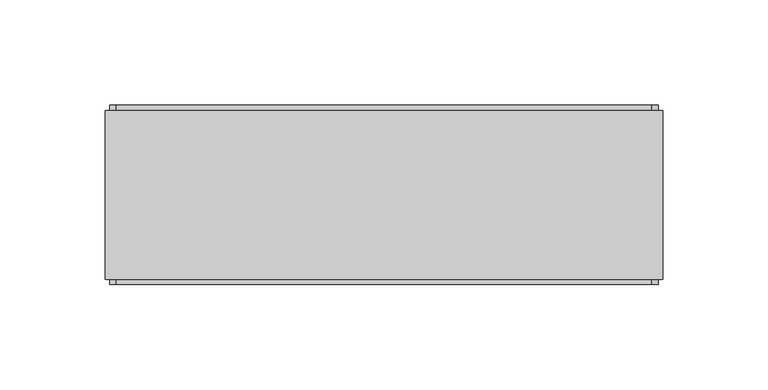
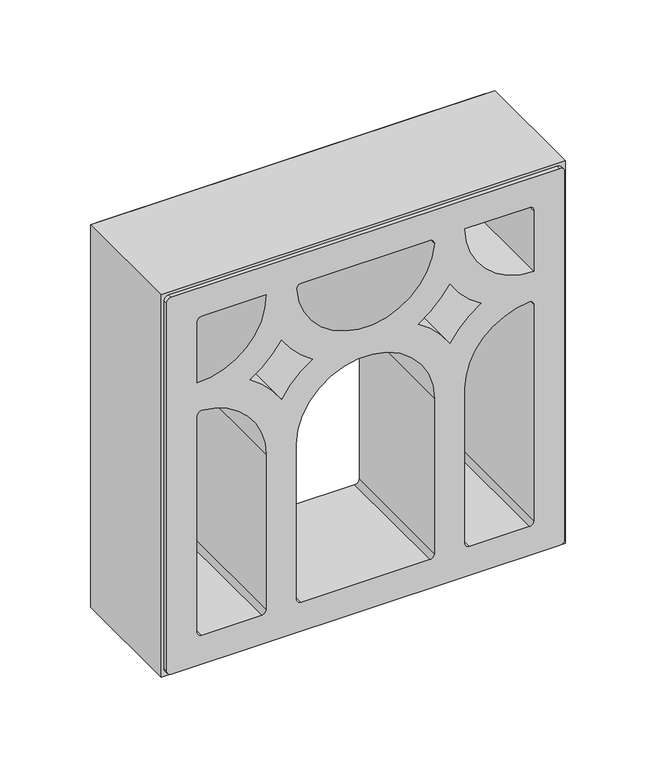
"""IFC4 building model written with IfcOpenShell, lengths in millimetres: plate geometry, PORTOBELLO - STUDIO CRAFT 2 26X26 (PAINEL CORTINA) : STUDIO CRAFT 2."""

from ifc_helpers import new_model, si_unit, point, frame, frame_2d, origin, place, context, project, spatial, polyline, circle_curve, trimmed, segment, composite_curve, outline, extrude, source, transform, mapped, element, save


def plate_7499bc92(model_context):
    return source(origin(), model_context, "Body", "SweptSolid", [
        extrude(outline(composite_curve([segment(polyline([(5.0, 130.0), (259.0, 130.0)]), True, "CONTINUOUS"), segment(trimmed(circle_curve(frame_2d((259.0, 127.0)), 3.0), [point((259.0, 130.0))], [point((262.0, 127.0))], False, "CARTESIAN"), True, "CONTINUOUS"), segment(polyline([(262.0, 127.0), (262.0, -127.0)]), True, "CONTINUOUS"), segment(trimmed(circle_curve(frame_2d((259.0, -127.0)), 3.0), [point((262.0, -127.0))], [point((259.0, -130.0))], False, "CARTESIAN"), True, "CONTINUOUS"), segment(polyline([(259.0, -130.0), (5.0, -130.0)]), True, "CONTINUOUS"), segment(trimmed(circle_curve(frame_2d((5.0, -127.0)), 3.0), [point((5.0, -130.0))], [point((2.0, -127.0))], False, "CARTESIAN"), True, "CONTINUOUS"), segment(polyline([(2.0, -127.0), (2.0, 127.0)]), True, "CONTINUOUS"), segment(trimmed(circle_curve(frame_2d((5.0, 127.0)), 3.0), [point((2.0, 127.0))], [point((5.0, 130.0))], False, "CARTESIAN"), True, "CONTINUOUS")], self_intersect=False), holes=[composite_curve([segment(polyline([(242.0, 65.0), (242.0, 107.0)]), True, "CONTINUOUS"), segment(trimmed(circle_curve(frame_2d((239.0, 107.0)), 3.0), [point((242.0, 107.0))], [point((239.0, 110.0))], True, "CARTESIAN"), True, "CONTINUOUS"), segment(polyline([(239.0, 110.0), (197.0, 110.0)]), True, "CONTINUOUS"), segment(trimmed(circle_curve(frame_2d((242.0, 110.0)), 45.0), [point((197.0, 110.0))], [point((242.0, 65.0))], True, "CARTESIAN"), True, "CONTINUOUS")], self_intersect=False), composite_curve([segment(polyline([(197.0, -110.0), (239.0, -110.0)]), True, "CONTINUOUS"), segment(trimmed(circle_curve(frame_2d((239.0, -107.0)), 3.0), [point((239.0, -110.0))], [point((242.0, -107.0))], True, "CARTESIAN"), True, "CONTINUOUS"), segment(polyline([(242.0, -107.0), (242.0, -65.0)]), True, "CONTINUOUS"), segment(trimmed(circle_curve(frame_2d((242.0, -110.0)), 45.0), [point((242.0, -65.0))], [point((197.0, -110.0))], True, "CARTESIAN"), True, "CONTINUOUS")], self_intersect=False), composite_curve([segment(polyline([(22.0, -68.0), (22.0, -107.0)]), True, "CONTINUOUS"), segment(trimmed(circle_curve(frame_2d((25.0, -107.0)), 3.0), [point((22.0, -107.0))], [point((25.0, -110.0))], True, "CARTESIAN"), True, "CONTINUOUS"), segment(polyline([(25.0, -110.0), (173.8927201, -110.0)]), True, "CONTINUOUS"), segment(trimmed(circle_curve(frame_2d((173.8927201, -107.0)), 3.0), [point((173.8927201, -110.0))], [point((176.8850573, -106.7857143))], True, "CARTESIAN"), True, "CONTINUOUS"), segment(trimmed(circle_curve(frame_2d((132.0, -110.0)), 45.0), [point((176.8850573, -106.7857143))], [point((132.0, -65.0))], True, "CARTESIAN"), True, "CONTINUOUS"), segment(polyline([(132.0, -65.0), (25.0, -65.0)]), True, "CONTINUOUS"), segment(trimmed(circle_curve(frame_2d((25.0, -68.0)), 3.0), [point((25.0, -65.0))], [point((22.0, -68.0))], True, "CARTESIAN"), True, "CONTINUOUS")], self_intersect=False), composite_curve([segment(polyline([(173.8927201, 110.0), (25.0, 110.0)]), True, "CONTINUOUS"), segment(trimmed(circle_curve(frame_2d((25.0, 107.0)), 3.0), [point((25.0, 110.0))], [point((22.0, 107.0))], True, "CARTESIAN"), True, "CONTINUOUS"), segment(polyline([(22.0, 107.0), (22.0, 68.0)]), True, "CONTINUOUS"), segment(trimmed(circle_curve(frame_2d((25.0, 68.0)), 3.0), [point((22.0, 68.0))], [point((25.0, 65.0))], True, "CARTESIAN"), True, "CONTINUOUS"), segment(polyline([(25.0, 65.0), (132.0, 65.0)]), True, "CONTINUOUS"), segment(trimmed(circle_curve(frame_2d((132.0, 110.0)), 45.0), [point((132.0, 65.0))], [point((176.8850573, 106.7857143))], True, "CARTESIAN"), True, "CONTINUOUS"), segment(trimmed(circle_curve(frame_2d((173.8927201, 107.0)), 3.0), [point((176.8850573, 106.7857143))], [point((173.8927201, 110.0))], True, "CARTESIAN"), True, "CONTINUOUS")], self_intersect=False), composite_curve([segment(trimmed(circle_curve(frame_2d((242.0, 0.0)), 45.0), [point((238.7857143, 44.8850573))], [point((238.7857143, -44.8850573))], True, "CARTESIAN"), True, "CONTINUOUS"), segment(trimmed(circle_curve(frame_2d((239.0, -41.8927201)), 3.0), [point((238.7857143, -44.8850573))], [point((242.0, -41.8927201))], True, "CARTESIAN"), True, "CONTINUOUS"), segment(polyline([(242.0, -41.8927201), (242.0, 41.8927201)]), True, "CONTINUOUS"), segment(trimmed(circle_curve(frame_2d((239.0, 41.8927201)), 3.0), [point((242.0, 41.8927201))], [point((238.7857143, 44.8850573))], True, "CARTESIAN"), True, "CONTINUOUS")], self_intersect=False), composite_curve([segment(polyline([(132.0, 45.0), (25.0, 45.0)]), True, "CONTINUOUS"), segment(trimmed(circle_curve(frame_2d((25.0, 42.0)), 3.0), [point((25.0, 45.0))], [point((22.0, 42.0))], True, "CARTESIAN"), True, "CONTINUOUS"), segment(polyline([(22.0, 42.0), (22.0, -42.0)]), True, "CONTINUOUS"), segment(trimmed(circle_curve(frame_2d((25.0, -42.0)), 3.0), [point((22.0, -42.0))], [point((25.0, -45.0))], True, "CARTESIAN"), True, "CONTINUOUS"), segment(polyline([(25.0, -45.0), (132.0, -45.0)]), True, "CONTINUOUS"), segment(trimmed(circle_curve(frame_2d((132.0, 0.0)), 45.0), [point((132.0, -45.0))], [point((132.0, 45.0))], True, "CARTESIAN"), True, "CONTINUOUS")], self_intersect=False), composite_curve([segment(trimmed(circle_curve(frame_2d((242.0, 0.0)), 65.0), [point((207.3589838, -55.0))], [point((187.0, -34.6410162))], False, "CARTESIAN"), True, "CONTINUOUS"), segment(trimmed(circle_curve(frame_2d((132.0, 0.0)), 65.0), [point((187.0, -34.6410162))], [point((166.6410162, -55.0))], False, "CARTESIAN"), True, "CONTINUOUS"), segment(trimmed(circle_curve(frame_2d((132.0, -110.0)), 65.0), [point((166.6410162, -55.0))], [point((187.0, -75.3589838))], False, "CARTESIAN"), True, "CONTINUOUS"), segment(trimmed(circle_curve(frame_2d((242.0, -110.0)), 65.0), [point((187.0, -75.3589838))], [point((207.3589838, -55.0))], False, "CARTESIAN"), True, "CONTINUOUS")], self_intersect=False), composite_curve([segment(trimmed(circle_curve(frame_2d((242.0, 110.0)), 65.0), [point((207.3589838, 55.0))], [point((187.0, 75.3589838))], False, "CARTESIAN"), True, "CONTINUOUS"), segment(trimmed(circle_curve(frame_2d((132.0, 110.0)), 65.0), [point((187.0, 75.3589838))], [point((166.6410162, 55.0))], False, "CARTESIAN"), True, "CONTINUOUS"), segment(trimmed(circle_curve(frame_2d((132.0, 0.0)), 65.0), [point((166.6410162, 55.0))], [point((187.0, 34.6410162))], False, "CARTESIAN"), True, "CONTINUOUS"), segment(trimmed(circle_curve(frame_2d((242.0, 0.0)), 65.0), [point((187.0, 34.6410162))], [point((207.3589838, 55.0))], False, "CARTESIAN"), True, "CONTINUOUS")], self_intersect=False)]), frame((0.0, -42.5, 0.0), z_axis=(0.0, 1.0, 0.0), x_axis=(0.0, 0.0, 1.0)), (0.0, 0.0, 1.0), 85.0),
        extrude(outline(polyline([(264.0, -132.0), (0.0, -132.0), (0.0, 132.0), (264.0, 132.0), (264.0, -132.0)]), holes=[composite_curve([segment(trimmed(circle_curve(frame_2d((5.0, -127.0)), 3.0), [point((2.0, -127.0))], [point((5.0, -130.0))], True, "CARTESIAN"), True, "CONTINUOUS"), segment(polyline([(5.0, -130.0), (259.0, -130.0)]), True, "CONTINUOUS"), segment(trimmed(circle_curve(frame_2d((259.0, -127.0)), 3.0), [point((259.0, -130.0))], [point((262.0, -127.0))], True, "CARTESIAN"), True, "CONTINUOUS"), segment(polyline([(262.0, -127.0), (262.0, 127.0)]), True, "CONTINUOUS"), segment(trimmed(circle_curve(frame_2d((259.0, 127.0)), 3.0), [point((262.0, 127.0))], [point((259.0, 130.0))], True, "CARTESIAN"), True, "CONTINUOUS"), segment(polyline([(259.0, 130.0), (5.0, 130.0)]), True, "CONTINUOUS"), segment(trimmed(circle_curve(frame_2d((5.0, 127.0)), 3.0), [point((5.0, 130.0))], [point((2.0, 127.0))], True, "CARTESIAN"), True, "CONTINUOUS"), segment(polyline([(2.0, 127.0), (2.0, -127.0)]), True, "CONTINUOUS")], self_intersect=False)]), frame((0.0, -40.0, 0.0), z_axis=(0.0, 1.0, 0.0), x_axis=(0.0, 0.0, 1.0)), (0.0, 0.0, 1.0), 80.0),
    ])


if __name__ == "__main__":
    model = new_model("IFC4")
    model_context = context("Model", 3, world=origin())
    ifc_project = project(units=[si_unit("LENGTHUNIT", "METRE", prefix="MILLI")], contexts=[model_context])
    site = spatial("IfcSite", under=ifc_project)
    building = spatial("IfcBuilding", under=site)
    placement = place(None, origin())
    plate_shape = plate_7499bc92(model_context)
    element("IfcPlate", 1, ObjectType="PORTOBELLO - STUDIO CRAFT 2 26X26 (PAINEL CORTINA) : STUDIO CRAFT 2", at=placement, inside=building, context=model_context, shape_type="MappedRepresentation", body=[
        mapped(plate_shape, transform((0.0, 0.0, 0.0), x_axis=(1.0, 0.0, 0.0), y_axis=(0.0, 1.0, 0.0), z_axis=(0.0, 0.0, 1.0))),
    ])
    save(model, "model.ifc")
